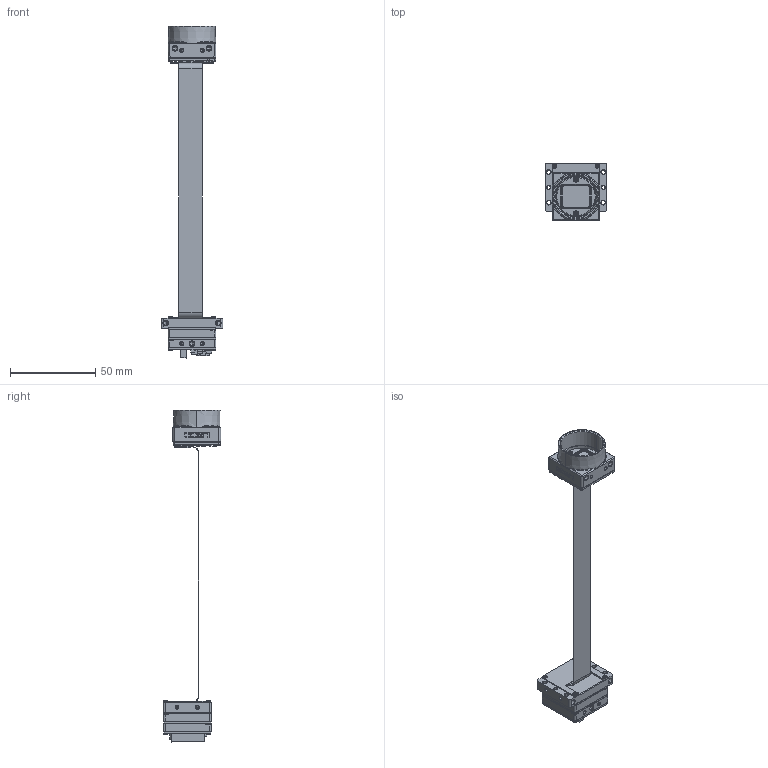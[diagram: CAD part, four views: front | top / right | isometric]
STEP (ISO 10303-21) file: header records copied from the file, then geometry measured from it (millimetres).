
FILE_DESCRIPTION (( 'STEP AP203' ), '1' );
FILE_NAME ('108-526-A_FFC.STEP', '2024-05-07T07:01:45', ( '' ), ( '' ), 'SwSTEP 2.0', 'SolidWorks 2021', '' );
FILE_SCHEMA (( 'CONFIG_CONTROL_DESIGN' ));
Products named in the file (1): 108-526-A_FFC
Bounding box: 36 x 33.65 x 195.14 mm (x, y, z)
Volume: 13245.4 mm3; surface area: 29393.4 mm2
Topology: 224 solids, 224 shells, 8350 faces, 21376 edges, 13212 vertices
Faces by surface type: plane 5122, cylinder 2110, bspline 541, cone 368, torus 137, sphere 72
Entity records: 254354 total; most frequent: CARTESIAN_POINT 55070, ORIENTED_EDGE 41792, DIRECTION 40305, EDGE_CURVE 20896, LINE 15529, VECTOR 15529, VERTEX_POINT 13202, AXIS2_PLACEMENT_3D 12388
